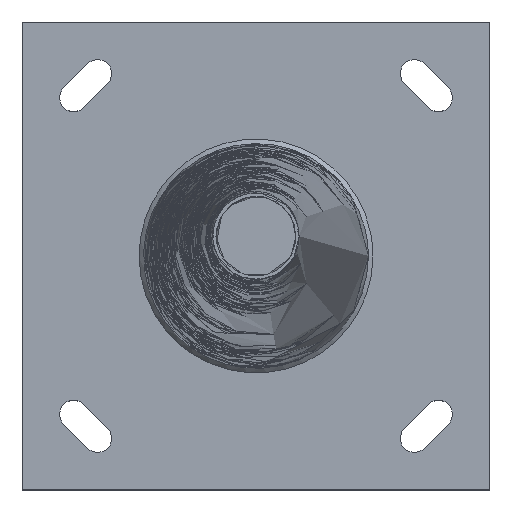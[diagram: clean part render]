
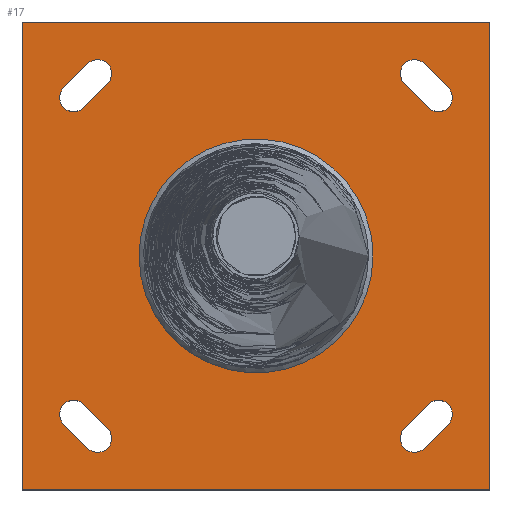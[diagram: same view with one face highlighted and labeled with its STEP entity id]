
A CAD part, top view. The second image highlights one B-rep face of the part: STEP entity #17.
In plain terms, the highlighted planar face has unit normal (0, 0, 1).
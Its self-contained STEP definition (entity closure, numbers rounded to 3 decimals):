
#17 = ADVANCED_FACE('',(#18,#57,#91,#127,#163,#199),#235,.T.);
#18 = FACE_BOUND('',#19,.T.);
#19 = EDGE_LOOP('',(#20));
#20 = ORIENTED_EDGE('',*,*,#21,.T.);
#21 = EDGE_CURVE('',#22,#22,#24,.T.);
#22 = VERTEX_POINT('',#23);
#23 = CARTESIAN_POINT('',(102.97,0.,5.));
#24 = B_SPLINE_CURVE_WITH_KNOTS('',11,(#25,#26,#27,#28,#29,#30,#31,#32,
    #33,#34,#35,#36,#37,#38,#39,#40,#41,#42,#43,#44,#45,#46,#47,#48,#49,
    #50,#51,#52,#53,#54,#55,#56),.UNSPECIFIED.,.T.,.F.,(12,10,10,12),(
    0.,155.461,310.922,621.844),
  .UNSPECIFIED.);
#25 = CARTESIAN_POINT('',(102.97,0.,5.));
#26 = CARTESIAN_POINT('',(102.97,-14.704,5.));
#27 = CARTESIAN_POINT('',(100.66,-29.408,5.
    ));
#28 = CARTESIAN_POINT('',(96.04,-43.708,5.
    ));
#29 = CARTESIAN_POINT('',(89.19,-57.208,5.
    ));
#30 = CARTESIAN_POINT('',(80.268,-69.502,5.
    ));
#31 = CARTESIAN_POINT('',(69.507,-80.272,5.)
  );
#32 = CARTESIAN_POINT('',(57.203,-89.189,5.)
  );
#33 = CARTESIAN_POINT('',(43.709,-96.041,5.)
  );
#34 = CARTESIAN_POINT('',(29.408,-100.66,5.));
#35 = CARTESIAN_POINT('',(14.704,-102.97,5.));
#36 = CARTESIAN_POINT('',(-14.704,-102.97,5.));
#37 = CARTESIAN_POINT('',(-29.408,-100.66,5.));
#38 = CARTESIAN_POINT('',(-43.709,-96.04,5.
    ));
#39 = CARTESIAN_POINT('',(-57.204,-89.19,5.)
  );
#40 = CARTESIAN_POINT('',(-69.507,-80.268,5.
    ));
#41 = CARTESIAN_POINT('',(-80.268,-69.506,5.
    ));
#42 = CARTESIAN_POINT('',(-89.191,-57.203,5.
    ));
#43 = CARTESIAN_POINT('',(-96.041,-43.709,5.
    ));
#44 = CARTESIAN_POINT('',(-100.66,-29.408,5.));
#45 = CARTESIAN_POINT('',(-102.97,-14.704,5.));
#46 = CARTESIAN_POINT('',(-102.97,29.408,5.));
#47 = CARTESIAN_POINT('',(-93.731,58.816,5.
    ));
#48 = CARTESIAN_POINT('',(-75.253,84.999,5.
    ));
#49 = CARTESIAN_POINT('',(-48.803,104.734,5.
    ));
#50 = CARTESIAN_POINT('',(-16.914,115.356,5.
    ));
#51 = CARTESIAN_POINT('',(16.914,115.363,5.
    ));
#52 = CARTESIAN_POINT('',(48.804,104.729,5.)
  );
#53 = CARTESIAN_POINT('',(75.253,85.001,5.
    ));
#54 = CARTESIAN_POINT('',(93.731,58.815,5.
    ));
#55 = CARTESIAN_POINT('',(102.969,29.408,5.));
#56 = CARTESIAN_POINT('',(102.97,0.,5.));
#57 = FACE_BOUND('',#58,.T.);
#58 = EDGE_LOOP('',(#59,#69,#77,#85));
#59 = ORIENTED_EDGE('',*,*,#60,.T.);
#60 = EDGE_CURVE('',#61,#63,#65,.T.);
#61 = VERTEX_POINT('',#62);
#62 = CARTESIAN_POINT('',(-206.,206.,5.));
#63 = VERTEX_POINT('',#64);
#64 = CARTESIAN_POINT('',(-206.,-206.,5.));
#65 = LINE('',#66,#67);
#66 = CARTESIAN_POINT('',(-206.,206.,5.));
#67 = VECTOR('',#68,1.);
#68 = DIRECTION('',(0.,-1.,0.));
#69 = ORIENTED_EDGE('',*,*,#70,.T.);
#70 = EDGE_CURVE('',#63,#71,#73,.T.);
#71 = VERTEX_POINT('',#72);
#72 = CARTESIAN_POINT('',(206.,-206.,5.));
#73 = LINE('',#74,#75);
#74 = CARTESIAN_POINT('',(-206.,-206.,5.));
#75 = VECTOR('',#76,1.);
#76 = DIRECTION('',(1.,0.,0.));
#77 = ORIENTED_EDGE('',*,*,#78,.T.);
#78 = EDGE_CURVE('',#71,#79,#81,.T.);
#79 = VERTEX_POINT('',#80);
#80 = CARTESIAN_POINT('',(206.,206.,5.));
#81 = LINE('',#82,#83);
#82 = CARTESIAN_POINT('',(206.,-206.,5.));
#83 = VECTOR('',#84,1.);
#84 = DIRECTION('',(0.,1.,0.));
#85 = ORIENTED_EDGE('',*,*,#86,.T.);
#86 = EDGE_CURVE('',#79,#61,#87,.T.);
#87 = LINE('',#88,#89);
#88 = CARTESIAN_POINT('',(206.,206.,5.));
#89 = VECTOR('',#90,1.);
#90 = DIRECTION('',(-1.,0.,0.));
#91 = FACE_BOUND('',#92,.T.);
#92 = EDGE_LOOP('',(#93,#104,#112,#121));
#93 = ORIENTED_EDGE('',*,*,#94,.F.);
#94 = EDGE_CURVE('',#95,#97,#99,.T.);
#95 = VERTEX_POINT('',#96);
#96 = CARTESIAN_POINT('',(-151.768,-130.555,5.));
#97 = VERTEX_POINT('',#98);
#98 = CARTESIAN_POINT('',(-169.445,-148.232,5.));
#99 = CIRCLE('',#100,12.5);
#100 = AXIS2_PLACEMENT_3D('',#101,#102,#103);
#101 = CARTESIAN_POINT('',(-160.607,-139.393,5.));
#102 = DIRECTION('',(0.,-0.,1.));
#103 = DIRECTION('',(0.,1.,0.));
#104 = ORIENTED_EDGE('',*,*,#105,.T.);
#105 = EDGE_CURVE('',#95,#106,#108,.T.);
#106 = VERTEX_POINT('',#107);
#107 = CARTESIAN_POINT('',(-130.555,-151.768,5.));
#108 = LINE('',#109,#110);
#109 = CARTESIAN_POINT('',(-151.768,-130.555,5.));
#110 = VECTOR('',#111,1.);
#111 = DIRECTION('',(0.707,-0.707,0.));
#112 = ORIENTED_EDGE('',*,*,#113,.F.);
#113 = EDGE_CURVE('',#114,#106,#116,.T.);
#114 = VERTEX_POINT('',#115);
#115 = CARTESIAN_POINT('',(-148.232,-169.445,5.));
#116 = CIRCLE('',#117,12.5);
#117 = AXIS2_PLACEMENT_3D('',#118,#119,#120);
#118 = CARTESIAN_POINT('',(-139.393,-160.607,5.));
#119 = DIRECTION('',(0.,-0.,1.));
#120 = DIRECTION('',(0.,1.,0.));
#121 = ORIENTED_EDGE('',*,*,#122,.F.);
#122 = EDGE_CURVE('',#97,#114,#123,.T.);
#123 = LINE('',#124,#125);
#124 = CARTESIAN_POINT('',(-169.445,-148.232,5.));
#125 = VECTOR('',#126,1.);
#126 = DIRECTION('',(0.707,-0.707,0.));
#127 = FACE_BOUND('',#128,.T.);
#128 = EDGE_LOOP('',(#129,#140,#148,#157));
#129 = ORIENTED_EDGE('',*,*,#130,.F.);
#130 = EDGE_CURVE('',#131,#133,#135,.T.);
#131 = VERTEX_POINT('',#132);
#132 = CARTESIAN_POINT('',(130.555,-151.768,5.));
#133 = VERTEX_POINT('',#134);
#134 = CARTESIAN_POINT('',(148.232,-169.445,5.));
#135 = CIRCLE('',#136,12.5);
#136 = AXIS2_PLACEMENT_3D('',#137,#138,#139);
#137 = CARTESIAN_POINT('',(139.393,-160.607,5.));
#138 = DIRECTION('',(0.,0.,1.));
#139 = DIRECTION('',(-1.,0.,0.));
#140 = ORIENTED_EDGE('',*,*,#141,.T.);
#141 = EDGE_CURVE('',#131,#142,#144,.T.);
#142 = VERTEX_POINT('',#143);
#143 = CARTESIAN_POINT('',(151.768,-130.555,5.));
#144 = LINE('',#145,#146);
#145 = CARTESIAN_POINT('',(130.555,-151.768,5.));
#146 = VECTOR('',#147,1.);
#147 = DIRECTION('',(0.707,0.707,0.));
#148 = ORIENTED_EDGE('',*,*,#149,.F.);
#149 = EDGE_CURVE('',#150,#142,#152,.T.);
#150 = VERTEX_POINT('',#151);
#151 = CARTESIAN_POINT('',(169.445,-148.232,5.));
#152 = CIRCLE('',#153,12.5);
#153 = AXIS2_PLACEMENT_3D('',#154,#155,#156);
#154 = CARTESIAN_POINT('',(160.607,-139.393,5.));
#155 = DIRECTION('',(0.,0.,1.));
#156 = DIRECTION('',(-1.,0.,0.));
#157 = ORIENTED_EDGE('',*,*,#158,.F.);
#158 = EDGE_CURVE('',#133,#150,#159,.T.);
#159 = LINE('',#160,#161);
#160 = CARTESIAN_POINT('',(148.232,-169.445,5.));
#161 = VECTOR('',#162,1.);
#162 = DIRECTION('',(0.707,0.707,0.));
#163 = FACE_BOUND('',#164,.T.);
#164 = EDGE_LOOP('',(#165,#176,#184,#193));
#165 = ORIENTED_EDGE('',*,*,#166,.F.);
#166 = EDGE_CURVE('',#167,#169,#171,.T.);
#167 = VERTEX_POINT('',#168);
#168 = CARTESIAN_POINT('',(-130.555,151.768,5.));
#169 = VERTEX_POINT('',#170);
#170 = CARTESIAN_POINT('',(-148.232,169.445,5.));
#171 = CIRCLE('',#172,12.5);
#172 = AXIS2_PLACEMENT_3D('',#173,#174,#175);
#173 = CARTESIAN_POINT('',(-139.393,160.607,5.));
#174 = DIRECTION('',(0.,0.,1.));
#175 = DIRECTION('',(1.,0.,0.));
#176 = ORIENTED_EDGE('',*,*,#177,.T.);
#177 = EDGE_CURVE('',#167,#178,#180,.T.);
#178 = VERTEX_POINT('',#179);
#179 = CARTESIAN_POINT('',(-151.768,130.555,5.));
#180 = LINE('',#181,#182);
#181 = CARTESIAN_POINT('',(-130.555,151.768,5.));
#182 = VECTOR('',#183,1.);
#183 = DIRECTION('',(-0.707,-0.707,0.));
#184 = ORIENTED_EDGE('',*,*,#185,.F.);
#185 = EDGE_CURVE('',#186,#178,#188,.T.);
#186 = VERTEX_POINT('',#187);
#187 = CARTESIAN_POINT('',(-169.445,148.232,5.));
#188 = CIRCLE('',#189,12.5);
#189 = AXIS2_PLACEMENT_3D('',#190,#191,#192);
#190 = CARTESIAN_POINT('',(-160.607,139.393,5.));
#191 = DIRECTION('',(0.,0.,1.));
#192 = DIRECTION('',(1.,0.,0.));
#193 = ORIENTED_EDGE('',*,*,#194,.F.);
#194 = EDGE_CURVE('',#169,#186,#195,.T.);
#195 = LINE('',#196,#197);
#196 = CARTESIAN_POINT('',(-148.232,169.445,5.));
#197 = VECTOR('',#198,1.);
#198 = DIRECTION('',(-0.707,-0.707,0.));
#199 = FACE_BOUND('',#200,.T.);
#200 = EDGE_LOOP('',(#201,#212,#220,#229));
#201 = ORIENTED_EDGE('',*,*,#202,.F.);
#202 = EDGE_CURVE('',#203,#205,#207,.T.);
#203 = VERTEX_POINT('',#204);
#204 = CARTESIAN_POINT('',(151.768,130.555,5.));
#205 = VERTEX_POINT('',#206);
#206 = CARTESIAN_POINT('',(169.445,148.232,5.));
#207 = CIRCLE('',#208,12.5);
#208 = AXIS2_PLACEMENT_3D('',#209,#210,#211);
#209 = CARTESIAN_POINT('',(160.607,139.393,5.));
#210 = DIRECTION('',(0.,0.,1.));
#211 = DIRECTION('',(0.,-1.,0.));
#212 = ORIENTED_EDGE('',*,*,#213,.T.);
#213 = EDGE_CURVE('',#203,#214,#216,.T.);
#214 = VERTEX_POINT('',#215);
#215 = CARTESIAN_POINT('',(130.555,151.768,5.));
#216 = LINE('',#217,#218);
#217 = CARTESIAN_POINT('',(151.768,130.555,5.));
#218 = VECTOR('',#219,1.);
#219 = DIRECTION('',(-0.707,0.707,0.));
#220 = ORIENTED_EDGE('',*,*,#221,.F.);
#221 = EDGE_CURVE('',#222,#214,#224,.T.);
#222 = VERTEX_POINT('',#223);
#223 = CARTESIAN_POINT('',(148.232,169.445,5.));
#224 = CIRCLE('',#225,12.5);
#225 = AXIS2_PLACEMENT_3D('',#226,#227,#228);
#226 = CARTESIAN_POINT('',(139.393,160.607,5.));
#227 = DIRECTION('',(0.,0.,1.));
#228 = DIRECTION('',(0.,-1.,0.));
#229 = ORIENTED_EDGE('',*,*,#230,.F.);
#230 = EDGE_CURVE('',#205,#222,#231,.T.);
#231 = LINE('',#232,#233);
#232 = CARTESIAN_POINT('',(169.445,148.232,5.));
#233 = VECTOR('',#234,1.);
#234 = DIRECTION('',(-0.707,0.707,0.));
#235 = PLANE('',#236);
#236 = AXIS2_PLACEMENT_3D('',#237,#238,#239);
#237 = CARTESIAN_POINT('',(0.,0.,5.));
#238 = DIRECTION('',(0.,0.,1.));
#239 = DIRECTION('',(1.,0.,0.));
